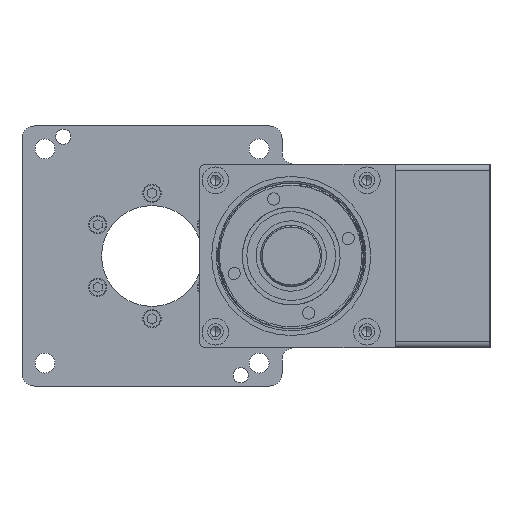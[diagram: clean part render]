
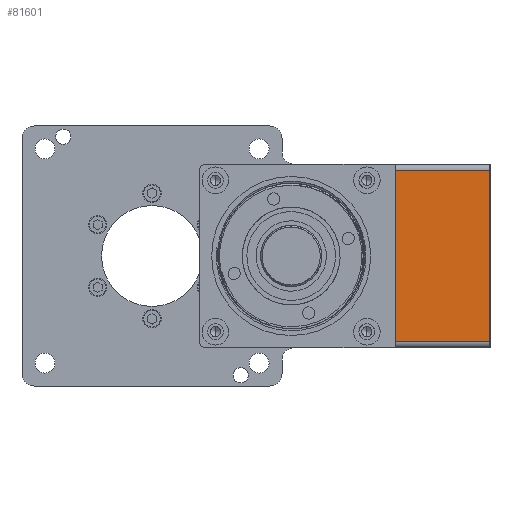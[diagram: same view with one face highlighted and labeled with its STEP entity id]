
A CAD part, front view. The second image highlights one B-rep face of the part: STEP entity #81601.
In plain terms, the highlighted planar face has unit normal (0, -1, 0) as drawn and (0, 0, -1) by its records, which use the part's own axes.
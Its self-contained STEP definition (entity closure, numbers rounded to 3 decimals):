
#77791 = PLANE('',#77792);
#77792 = AXIS2_PLACEMENT_3D('',#77793,#77794,#77795);
#77793 = CARTESIAN_POINT('',(-55.842,-11.797,
    -31.266));
#77794 = DIRECTION('',(0.,1.,-0.));
#77795 = DIRECTION('',(1.,0.,0.));
#79004 = PLANE('',#79005);
#79005 = AXIS2_PLACEMENT_3D('',#79006,#79007,#79008);
#79006 = CARTESIAN_POINT('',(-55.842,-42.797,
    -31.266));
#79007 = DIRECTION('',(0.,1.,-0.));
#79008 = DIRECTION('',(1.,0.,0.));
#81167 = EDGE_CURVE('',#81168,#81170,#81172,.T.);
#81168 = VERTEX_POINT('',#81169);
#81169 = CARTESIAN_POINT('',(2.158,-11.797,
    -31.266));
#81170 = VERTEX_POINT('',#81171);
#81171 = CARTESIAN_POINT('',(-53.842,-11.797,
    -31.266));
#81172 = SURFACE_CURVE('',#81173,(#81177,#81184),.PCURVE_S1.);
#81173 = LINE('',#81174,#81175);
#81174 = CARTESIAN_POINT('',(-55.842,-11.797,
    -31.266));
#81175 = VECTOR('',#81176,1.);
#81176 = DIRECTION('',(-1.,-0.,0.));
#81177 = PCURVE('',#77791,#81178);
#81178 = DEFINITIONAL_REPRESENTATION('',(#81179),#81183);
#81179 = LINE('',#81180,#81181);
#81180 = CARTESIAN_POINT('',(0.,0.));
#81181 = VECTOR('',#81182,1.);
#81182 = DIRECTION('',(-1.,0.));
#81183 = ( GEOMETRIC_REPRESENTATION_CONTEXT(2) 
PARAMETRIC_REPRESENTATION_CONTEXT() REPRESENTATION_CONTEXT('2D SPACE',''
  ) );
#81184 = PCURVE('',#81185,#81190);
#81185 = PLANE('',#81186);
#81186 = AXIS2_PLACEMENT_3D('',#81187,#81188,#81189);
#81187 = CARTESIAN_POINT('',(4.158,-42.797,
    -31.266));
#81188 = DIRECTION('',(0.,-0.,1.));
#81189 = DIRECTION('',(-0.,1.,0.));
#81190 = DEFINITIONAL_REPRESENTATION('',(#81191),#81195);
#81191 = LINE('',#81192,#81193);
#81192 = CARTESIAN_POINT('',(31.,60.));
#81193 = VECTOR('',#81194,1.);
#81194 = DIRECTION('',(0.,1.));
#81195 = ( GEOMETRIC_REPRESENTATION_CONTEXT(2) 
PARAMETRIC_REPRESENTATION_CONTEXT() REPRESENTATION_CONTEXT('2D SPACE',''
  ) );
#81214 = CYLINDRICAL_SURFACE('',#81215,2.);
#81215 = AXIS2_PLACEMENT_3D('',#81216,#81217,#81218);
#81216 = CARTESIAN_POINT('',(-53.842,-42.797,
    -29.266));
#81217 = DIRECTION('',(0.,1.,-0.));
#81218 = DIRECTION('',(1.,0.,0.));
#81373 = CYLINDRICAL_SURFACE('',#81374,2.);
#81374 = AXIS2_PLACEMENT_3D('',#81375,#81376,#81377);
#81375 = CARTESIAN_POINT('',(2.158,-42.797,
    -29.266));
#81376 = DIRECTION('',(0.,1.,-0.));
#81377 = DIRECTION('',(1.,0.,0.));
#81534 = EDGE_CURVE('',#81170,#81535,#81537,.T.);
#81535 = VERTEX_POINT('',#81536);
#81536 = CARTESIAN_POINT('',(-53.842,-42.797,
    -31.266));
#81537 = SURFACE_CURVE('',#81538,(#81542,#81549),.PCURVE_S1.);
#81538 = LINE('',#81539,#81540);
#81539 = CARTESIAN_POINT('',(-53.842,-42.797,
    -31.266));
#81540 = VECTOR('',#81541,1.);
#81541 = DIRECTION('',(-0.,-1.,0.));
#81542 = PCURVE('',#81214,#81543);
#81543 = DEFINITIONAL_REPRESENTATION('',(#81544),#81548);
#81544 = LINE('',#81545,#81546);
#81545 = CARTESIAN_POINT('',(1.571,0.));
#81546 = VECTOR('',#81547,1.);
#81547 = DIRECTION('',(0.,-1.));
#81548 = ( GEOMETRIC_REPRESENTATION_CONTEXT(2) 
PARAMETRIC_REPRESENTATION_CONTEXT() REPRESENTATION_CONTEXT('2D SPACE',''
  ) );
#81549 = PCURVE('',#81185,#81550);
#81550 = DEFINITIONAL_REPRESENTATION('',(#81551),#81555);
#81551 = LINE('',#81552,#81553);
#81552 = CARTESIAN_POINT('',(0.,58.));
#81553 = VECTOR('',#81554,1.);
#81554 = DIRECTION('',(-1.,-0.));
#81555 = ( GEOMETRIC_REPRESENTATION_CONTEXT(2) 
PARAMETRIC_REPRESENTATION_CONTEXT() REPRESENTATION_CONTEXT('2D SPACE',''
  ) );
#81601 = ADVANCED_FACE('',(#81602),#81185,.F.);
#81602 = FACE_BOUND('',#81603,.T.);
#81603 = EDGE_LOOP('',(#81604,#81627,#81648,#81649));
#81604 = ORIENTED_EDGE('',*,*,#81605,.F.);
#81605 = EDGE_CURVE('',#81606,#81168,#81608,.T.);
#81606 = VERTEX_POINT('',#81607);
#81607 = CARTESIAN_POINT('',(2.158,-42.797,
    -31.266));
#81608 = SURFACE_CURVE('',#81609,(#81613,#81620),.PCURVE_S1.);
#81609 = LINE('',#81610,#81611);
#81610 = CARTESIAN_POINT('',(2.158,-42.797,
    -31.266));
#81611 = VECTOR('',#81612,1.);
#81612 = DIRECTION('',(-0.,1.,0.));
#81613 = PCURVE('',#81185,#81614);
#81614 = DEFINITIONAL_REPRESENTATION('',(#81615),#81619);
#81615 = LINE('',#81616,#81617);
#81616 = CARTESIAN_POINT('',(0.,2.));
#81617 = VECTOR('',#81618,1.);
#81618 = DIRECTION('',(1.,0.));
#81619 = ( GEOMETRIC_REPRESENTATION_CONTEXT(2) 
PARAMETRIC_REPRESENTATION_CONTEXT() REPRESENTATION_CONTEXT('2D SPACE',''
  ) );
#81620 = PCURVE('',#81373,#81621);
#81621 = DEFINITIONAL_REPRESENTATION('',(#81622),#81626);
#81622 = LINE('',#81623,#81624);
#81623 = CARTESIAN_POINT('',(1.571,0.));
#81624 = VECTOR('',#81625,1.);
#81625 = DIRECTION('',(0.,1.));
#81626 = ( GEOMETRIC_REPRESENTATION_CONTEXT(2) 
PARAMETRIC_REPRESENTATION_CONTEXT() REPRESENTATION_CONTEXT('2D SPACE',''
  ) );
#81627 = ORIENTED_EDGE('',*,*,#81628,.F.);
#81628 = EDGE_CURVE('',#81535,#81606,#81629,.T.);
#81629 = SURFACE_CURVE('',#81630,(#81634,#81641),.PCURVE_S1.);
#81630 = LINE('',#81631,#81632);
#81631 = CARTESIAN_POINT('',(4.158,-42.797,
    -31.266));
#81632 = VECTOR('',#81633,1.);
#81633 = DIRECTION('',(1.,-0.,0.));
#81634 = PCURVE('',#81185,#81635);
#81635 = DEFINITIONAL_REPRESENTATION('',(#81636),#81640);
#81636 = LINE('',#81637,#81638);
#81637 = CARTESIAN_POINT('',(0.,0.));
#81638 = VECTOR('',#81639,1.);
#81639 = DIRECTION('',(0.,-1.));
#81640 = ( GEOMETRIC_REPRESENTATION_CONTEXT(2) 
PARAMETRIC_REPRESENTATION_CONTEXT() REPRESENTATION_CONTEXT('2D SPACE',''
  ) );
#81641 = PCURVE('',#79004,#81642);
#81642 = DEFINITIONAL_REPRESENTATION('',(#81643),#81647);
#81643 = LINE('',#81644,#81645);
#81644 = CARTESIAN_POINT('',(60.,0.));
#81645 = VECTOR('',#81646,1.);
#81646 = DIRECTION('',(1.,0.));
#81647 = ( GEOMETRIC_REPRESENTATION_CONTEXT(2) 
PARAMETRIC_REPRESENTATION_CONTEXT() REPRESENTATION_CONTEXT('2D SPACE',''
  ) );
#81648 = ORIENTED_EDGE('',*,*,#81534,.F.);
#81649 = ORIENTED_EDGE('',*,*,#81167,.F.);
